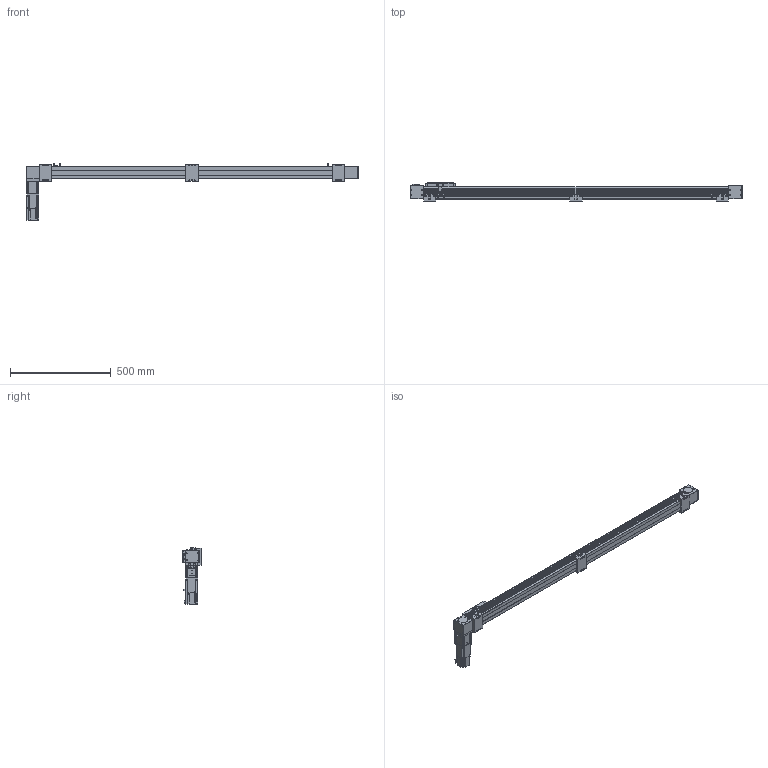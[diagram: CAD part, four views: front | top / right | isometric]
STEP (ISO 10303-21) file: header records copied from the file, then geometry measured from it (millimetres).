
FILE_DESCRIPTION(/* description */ ('STEP AP203'),/* implementation_level */ '2;1');
FILE_NAME(/* name */ 'SK60-P13-S1350-BR-T40-C1-N(0)',/* time_stamp */ '2023-04-06T03:59:54+02:00',/* author */ ('License CC BY-ND 4.0'),/* organization */ ('CADENAS'),/* preprocessor_version */ 'ST-DEVELOPER v19.3',/* originating_system */ 'PARTsolutions',/* authorisation */ ' ');
FILE_SCHEMA (('CONFIG_CONTROL_DESIGN'));
Length unit declared in the file: millimetre
Products named in the file (11): SK60-P13-S1350-BR-T40-C1-N(0); PSC140-sensor; SK60-S450_seat; SK60-S450-BL-C1_slider; SK60_body3; SK60_body6; SK60-BL_body2; T40-p1; SK60_body5; SK60_body4; SK60-S1350-BR-C1_body
Assembly tree (18 placements, depth 2):
  SK60-P13-S1350-BR-T40-C1-N(0)
    PSC140-sensor  x3
    SK60-S450_seat  x3
    SK60-S450-BL-C1_slider
    SK60_body3  x3
    SK60_body6  x2
    SK60-BL_body2  x2
    T40-p1
    SK60_body5
    SK60_body4
    SK60-S1350-BR-C1_body
Bounding box: 1650 x 90 x 279.1 mm (x, y, z)
Volume: 6196004.3 mm3; surface area: 803248.3 mm2
Topology: 18 solids, 22 shells, 878 faces, 2207 edges, 1458 vertices
Faces by surface type: plane 568, cylinder 282, cone 26, torus 2
Full cylindrical faces by diameter (mm): 2.8 x3, 3.3 x4, 4.2 x8, 4.5 x26, 4.6 x3, 4.917 x20, 5 x2, 5.478 x4, 5.5 x23, 6.5 x6, 8 x4, 8.5 x4, 9.988 x4, 10 x12, 13.556 x1, 14 x1, 14.586 x1, 19.692 x1, 38.432 x2, 43 x1, 44 x3, 47 x2, 50 x2
Entity records: 19379 total; most frequent: DIRECTION 3294, CARTESIAN_POINT 3290, ORIENTED_EDGE 3050, EDGE_CURVE 1525, AXIS2_PLACEMENT_3D 1101, LINE 1092, VECTOR 1092, VERTEX_POINT 1077
